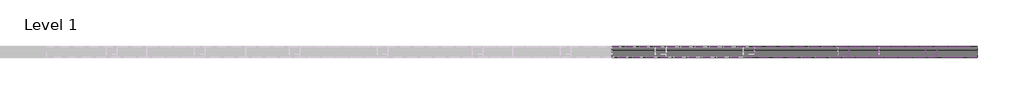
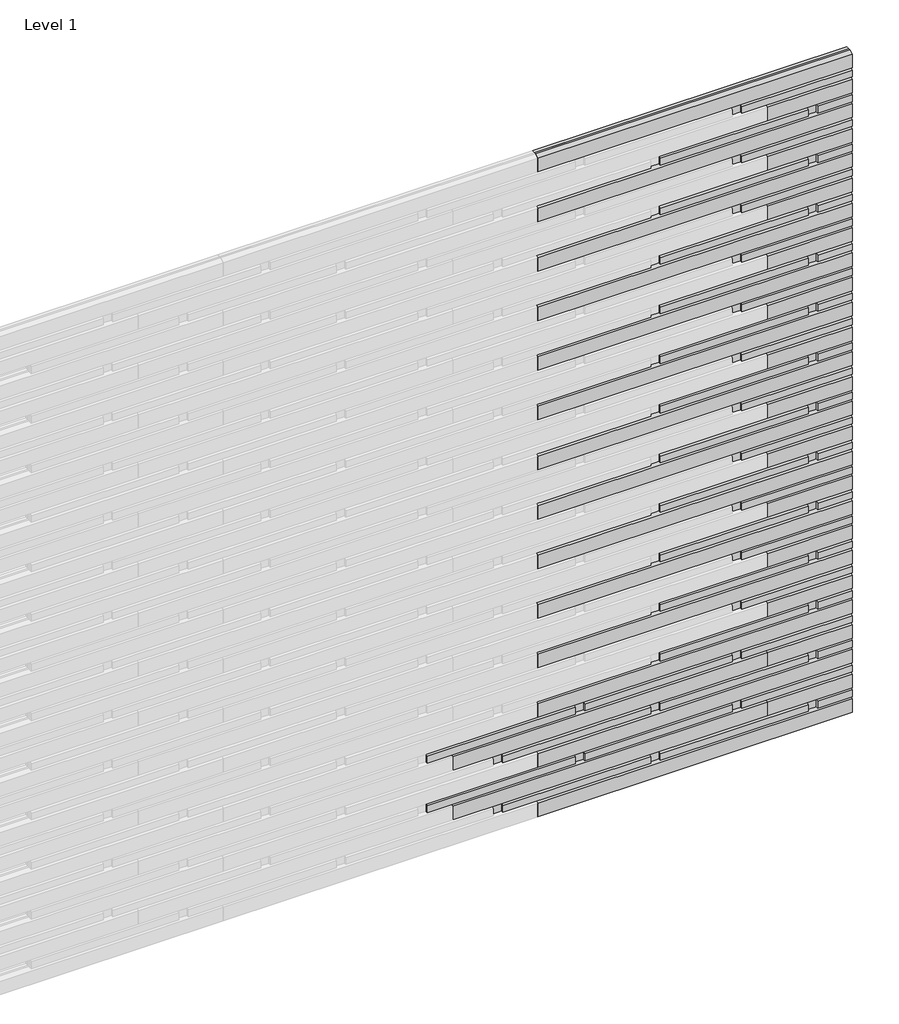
# One storey, part 4 of 4: 106 proxies.
"""IFC4 building model written with IfcOpenShell, lengths in millimetres."""

import ifcopenshell
import ifcopenshell.guid

model = None  # the IFC model being written
_history = None  # IfcOwnerHistory: only IFC2X3 demands one
_inside = {}  # id of a spatial element -> (the spatial element, [elements in it])
_under = {}  # id of a project, library or spatial element -> (it, [spatial elements below it])
_declared = {}  # id of a project -> (the project, [libraries it declares])
_typed = {}  # id of a type object -> (the type object, [elements of that type])
_made_of = {}  # id of a material, layer set ... -> (it, [elements and type objects made of it])


def new_model(schema):
    """Start an empty IFC model of exactly this schema.

    Asked for "IFC4X3", IfcOpenShell would pick the latest addendum, in which some entities
    have other attributes; the version numbers below select the first issue.
    IFC2X3 requires an IfcOwnerHistory on every rooted entity: one is made here for all.
    """
    global model, _history
    if schema == "IFC4X3":
        model = ifcopenshell.file(schema_version=(4, 3, 0, 0))
    else:
        model = ifcopenshell.file(schema=schema)
    _inside.clear()
    _under.clear()
    _declared.clear()
    _typed.clear()
    _made_of.clear()
    _history = None
    if model.schema == "IFC2X3":
        org = make("IfcOrganization", Name="unknown")
        user = make(
            "IfcPersonAndOrganization",
            ThePerson=make("IfcPerson", FamilyName="unknown"),
            TheOrganization=org,
        )
        app = make(
            "IfcApplication",
            ApplicationDeveloper=org,
            Version="unknown",
            ApplicationFullName="unknown",
            ApplicationIdentifier="unknown",
        )
        _history = make(
            "IfcOwnerHistory",
            OwningUser=user,
            OwningApplication=app,
            ChangeAction="ADDED",
            CreationDate=0,
        )
    return model


def make(cls, **values):
    """One entity of the class cls with the attributes given. An attribute that is None is left unset."""
    return model.create_entity(
        cls, **{name: value for name, value in values.items() if value is not None}
    )


def rooted(cls, **values):
    """An entity with a GlobalId (a new one), such as an element, a storey or a relation."""
    return make(cls, GlobalId=ifcopenshell.guid.new(), OwnerHistory=_history, **values)


def si_unit(unit_type, name, prefix=None):
    """IfcSIUnit, for example si_unit("LENGTHUNIT", "METRE", prefix="MILLI")."""
    return make("IfcSIUnit", UnitType=unit_type, Prefix=prefix, Name=name)


def assignment(units):
    """IfcUnitAssignment: the units of a project."""
    return None if units is None else make("IfcUnitAssignment", Units=units)


def point(xyz):
    """IfcCartesianPoint."""
    return None if xyz is None else make("IfcCartesianPoint", Coordinates=xyz)


def direction(xyz):
    """IfcDirection."""
    return None if xyz is None else make("IfcDirection", DirectionRatios=xyz)


def frame(location, z_axis=None, x_axis=None):
    """IfcAxis2Placement3D, a coordinate frame: its origin and axes. An axis left out is left unset."""
    return make(
        "IfcAxis2Placement3D",
        Location=point(location),
        Axis=direction(z_axis),
        RefDirection=direction(x_axis),
    )


def origin():
    """The frame at (0, 0, 0) with its axes left unset."""
    return frame((0.0, 0.0, 0.0))


def origin_with_axes():
    """The frame at (0, 0, 0) with the z axis (0, 0, 1) and the x axis (1, 0, 0) written out."""
    return frame((0.0, 0.0, 0.0), z_axis=(0.0, 0.0, 1.0), x_axis=(1.0, 0.0, 0.0))


def place(relative_to, where):
    """IfcLocalPlacement: puts the frame where relative to a parent placement (None: the world)."""
    return make(
        "IfcLocalPlacement", PlacementRelTo=relative_to, RelativePlacement=where
    )


def context(
    kind, dimensions, precision=None, world=None, true_north=None, identifier=None
):
    """IfcGeometricRepresentationContext, for example the 3D "Model" context."""
    return make(
        "IfcGeometricRepresentationContext",
        ContextIdentifier=identifier,
        ContextType=kind,
        CoordinateSpaceDimension=dimensions,
        Precision=precision,
        WorldCoordinateSystem=world,
        TrueNorth=true_north,
    )


def project(units=None, contexts=None):
    """IfcProject with its units and contexts."""
    return rooted(
        "IfcProject",
        Name="project",
        RepresentationContexts=contexts,
        UnitsInContext=assignment(units),
    )


def spatial(cls, under=None, at=None, **own):
    """A site, building, storey or space (cls), placed at a placement, below another one or the project."""
    s = rooted(cls, ObjectPlacement=at, **own)
    if under is not None:
        _under.setdefault(under.id(), (under, []))[1].append(s)
    return s


def polyline(points):
    """IfcPolyline through the points."""
    return make("IfcPolyline", Points=[point(p) for p in points])


def outline(outer, holes=None, kind="AREA"):
    """IfcArbitraryClosedProfileDef: a profile drawn as a closed curve; with holes, ...WithVoids."""
    if holes is None:
        return make("IfcArbitraryClosedProfileDef", ProfileType=kind, OuterCurve=outer)
    return make(
        "IfcArbitraryProfileDefWithVoids",
        ProfileType=kind,
        OuterCurve=outer,
        InnerCurves=holes,
    )


def extrude(swept, where, along, depth):
    """IfcExtrudedAreaSolid: the profile swept, set in the frame where, extruded along a direction by depth."""
    return make(
        "IfcExtrudedAreaSolid",
        SweptArea=swept,
        Position=where,
        ExtrudedDirection=direction(along),
        Depth=depth,
    )


def shape(context_of_items, identifier, shape_type, items):
    """IfcShapeRepresentation: the items that make up one representation, for example the "Body"."""
    return make(
        "IfcShapeRepresentation",
        ContextOfItems=context_of_items,
        RepresentationIdentifier=identifier,
        RepresentationType=shape_type,
        Items=items,
    )


def source(mapping_origin, context_of_items, identifier, shape_type, items):
    """IfcRepresentationMap: a shape defined once, which mapped items show again and again."""
    return make(
        "IfcRepresentationMap",
        MappingOrigin=mapping_origin,
        MappedRepresentation=shape(context_of_items, identifier, shape_type, items),
    )


def transform(
    local_origin,
    x_axis=None,
    y_axis=None,
    z_axis=None,
    scale=None,
    scale2=None,
    scale3=None,
    uniform=True,
):
    """IfcCartesianTransformationOperator3D, or its non-uniform kind. x_axis, y_axis, z_axis: its Axis1, 2, 3."""
    if uniform:
        return make(
            "IfcCartesianTransformationOperator3D",
            Axis1=direction(x_axis),
            Axis2=direction(y_axis),
            LocalOrigin=point(local_origin),
            Scale=scale,
            Axis3=direction(z_axis),
        )
    return make(
        "IfcCartesianTransformationOperator3DnonUniform",
        Axis1=direction(x_axis),
        Axis2=direction(y_axis),
        LocalOrigin=point(local_origin),
        Scale=scale,
        Axis3=direction(z_axis),
        Scale2=scale2,
        Scale3=scale3,
    )


def mapped(mapping_source, mapping_target):
    """IfcMappedItem: shows the shape of a source again, moved by a transform."""
    return make(
        "IfcMappedItem", MappingSource=mapping_source, MappingTarget=mapping_target
    )


def made_of(thing, what):
    """Note that an element or type object is made of a material, layer set ...; save() writes the relation."""
    if what is not None:
        _made_of.setdefault(what.id(), (what, []))[1].append(thing)
    return thing


def element(
    cls,
    number,
    at=None,
    inside=None,
    cuts=None,
    type_object=None,
    material=None,
    context=None,
    identifier="Body",
    shape_type=None,
    held_by="IfcProductDefinitionShape",
    body=None,
    shapes=None,
    **own,
):
    """One element of the class cls, such as IfcWall. Its Tag is "e" and its number.

    at: its placement. inside: the storey or other place that contains it. cuts: it is an
    opening in that element (IfcRelVoidsElement). A single representation is given by context,
    identifier, shape_type and body (its items); several are given by shapes. held_by: the class
    of the entity that holds the representations. save() writes the other relations.
    """
    e = rooted(cls, Tag="e%d" % number, ObjectPlacement=at, **own)
    if body is not None:
        shapes = [shape(context, identifier, shape_type, body)]
    if shapes is not None:
        e.Representation = make(held_by, Representations=shapes)
    if inside is not None:
        _inside.setdefault(inside.id(), (inside, []))[1].append(e)
    if cuts is not None:
        rooted(
            "IfcRelVoidsElement", RelatingBuildingElement=cuts, RelatedOpeningElement=e
        )
    if type_object is not None:
        _typed.setdefault(type_object.id(), (type_object, []))[1].append(e)
    return made_of(e, material)


def aggregate(whole, parts):
    """IfcRelAggregates: a whole, such as a stair, and the parts it consists of."""
    return rooted("IfcRelAggregates", RelatingObject=whole, RelatedObjects=parts)


def save(model, path):
    """Write the relations noted so far, then the file.

    IfcRelAggregates (storeys below a building ...), IfcRelContainedInSpatialStructure (elements
    in a storey), IfcRelDefinesByType, IfcRelAssociatesMaterial and IfcRelDeclares: one each for
    every whole, place, type object, material and project.
    """
    for whole, parts in _under.values():
        aggregate(whole, parts)
    for where, things in _inside.values():
        rooted(
            "IfcRelContainedInSpatialStructure",
            RelatedElements=things,
            RelatingStructure=where,
        )
    for kind, things in _typed.values():
        rooted("IfcRelDefinesByType", RelatedObjects=things, RelatingType=kind)
    for what, things in _made_of.values():
        rooted("IfcRelAssociatesMaterial", RelatedObjects=things, RelatingMaterial=what)
    for by, libraries in _declared.values():
        rooted("IfcRelDeclares", RelatingContext=by, RelatedDefinitions=libraries)
    model.write(path)


def specialty_equipment_50deff0f(model_context):
    return source(origin(), model_context, "Body", "SweptSolid", [
        extrude(outline(polyline([(44.45, 19.05), (-44.45, 19.05), (-44.45, 50.8), (31.4559581, 50.8), (44.45, 28.2936592), (44.45, 19.05)])), frame((-838.2, 0.0, 0.0), z_axis=(1.0, 0.0, 0.0), x_axis=(0.0, 1.0, 0.0)), (0.0, 0.0, 1.0), 1676.4),
        extrude(outline(polyline([(-838.2, -44.45), (-838.2, 44.45), (838.2, 44.45), (838.2, -44.45), (-838.2, -44.45)])), origin_with_axes(), (0.0, 0.0, 1.0), 19.05),
    ])


def specialty_equipment_1c03680a(model_context):
    return source(origin(), model_context, "Body", "SweptSolid", [
        extrude(outline(polyline([(25.4, 19.05), (-25.4, 19.05), (-25.4, 50.8), (12.4059581, 50.8), (25.4, 28.2936592), (25.4, 19.05)])), frame((-393.7, 0.0, 0.0), z_axis=(1.0, 0.0, 0.0), x_axis=(0.0, 1.0, 0.0)), (0.0, 0.0, 1.0), 787.4),
        extrude(outline(polyline([(-393.7, -25.4), (-393.7, 25.4), (393.7, 25.4), (393.7, -25.4), (-393.7, -25.4)])), origin_with_axes(), (0.0, 0.0, 1.0), 19.05),
    ])


def specialty_equipment_1ede2179(model_context):
    return source(origin(), model_context, "Body", "SweptSolid", [
        extrude(outline(polyline([(25.4, 25.4), (25.4, -25.4), (-25.4, -25.4), (-25.4, 25.4), (25.4, 25.4)])), frame((0.0, 0.0, 19.05), z_axis=(0.0, 0.0, 1.0), x_axis=(1.0, 0.0, 0.0)), (0.0, 0.0, 1.0), 19.05),
        extrude(outline(polyline([(-25.4, -25.4), (-25.4, 25.4), (25.4, 25.4), (25.4, -25.4), (-25.4, -25.4)])), origin_with_axes(), (0.0, 0.0, 1.0), 19.05),
    ])


def specialty_equipment_86a735bd(model_context):
    return source(origin(), model_context, "Body", "SweptSolid", [
        extrude(outline(polyline([(25.4, 19.05), (-25.4, 19.05), (-25.4, 50.8), (12.4059581, 50.8), (25.4, 28.2936592), (25.4, 19.05)])), frame((-294.0207011, 0.0, 0.0), z_axis=(1.0, 0.0, 0.0), x_axis=(0.0, 1.0, 0.0)), (0.0, 0.0, 1.0), 588.0414022),
        extrude(outline(polyline([(-294.0207011, -25.4), (-294.0207011, 25.4), (294.0207011, 25.4), (294.0207011, -25.4), (-294.0207011, -25.4)])), origin_with_axes(), (0.0, 0.0, 1.0), 19.05),
    ])


def specialty_equipment_7868c63d(model_context):
    return source(origin(), model_context, "Body", "SweptSolid", [
        extrude(outline(polyline([(25.4, 19.05), (-25.4, 19.05), (-25.4, 50.8), (12.4059581, 50.8), (25.4, 28.2936592), (25.4, 19.05)])), frame((-92.5037266, 0.0, 0.0), z_axis=(1.0, 0.0, 0.0), x_axis=(0.0, 1.0, 0.0)), (0.0, 0.0, 1.0), 185.0074532),
        extrude(outline(polyline([(-92.5037266, -25.4), (-92.5037266, 25.4), (92.5037266, 25.4), (92.5037266, -25.4), (-92.5037266, -25.4)])), origin_with_axes(), (0.0, 0.0, 1.0), 19.05),
    ])


def specialty_equipment_fa3eccf0(model_context):
    return source(origin(), model_context, "Body", "SweptSolid", [
        extrude(outline(polyline([(44.45, 19.05), (-44.45, 19.05), (-44.45, 50.8), (31.4559581, 50.8), (44.45, 28.2936592), (44.45, 19.05)])), frame((-226.2423973, 0.0, 0.0), z_axis=(1.0, 0.0, 0.0), x_axis=(0.0, 1.0, 0.0)), (0.0, 0.0, 1.0), 452.4847946),
        extrude(outline(polyline([(-226.2423973, -44.45), (-226.2423973, 44.45), (226.2423973, 44.45), (226.2423973, -44.45), (-226.2423973, -44.45)])), origin_with_axes(), (0.0, 0.0, 1.0), 19.05),
    ])


model = new_model("IFC4")

# Units and contexts
model_context = context("Model", 3, world=origin())
ifc_project = project(units=[si_unit("LENGTHUNIT", "METRE", prefix="MILLI")], contexts=[model_context])

# Site, building, storey
site = spatial("IfcSite", under=ifc_project)
building = spatial("IfcBuilding", under=site)
storey = spatial("IfcBuildingStorey", under=building, Name="Level 1", Elevation=0.0)

# Proxies
placement = place(None, origin())
specialty_equipment_shape = specialty_equipment_50deff0f(model_context)
element("IfcBuildingElementProxy", 1, Name="Spinneybeck_ARO Plank 7 : A - 5’-6”  x 3 1/2” x 1 1/4”", ObjectType="Spinneybeck_ARO Plank 7 : A - 5’-6”  x 3 1/2” x 1 1/4”", at=placement, inside=storey, context=model_context, shape_type="MappedRepresentation", body=[
    mapped(specialty_equipment_shape, transform((-1856.9177571, 2593.3070483, 3755.55), x_axis=(1.0, 0.0, 0.0), y_axis=(0.0, 0.0, 1.0), z_axis=(0.0, -1.0, 0.0))),
])
element("IfcBuildingElementProxy", 2, Name="Spinneybeck_ARO Plank 7 : A - 5’-6”  x 3 1/2” x 1 1/4”", ObjectType="Spinneybeck_ARO Plank 7 : A - 5’-6”  x 3 1/2” x 1 1/4”", at=placement, inside=storey, context=model_context, shape_type="MappedRepresentation", body=[
    mapped(specialty_equipment_shape, transform((-1856.9177571, 2593.3070483, 3476.15), x_axis=(1.0, 0.0, 0.0), y_axis=(0.0, 0.0, 1.0), z_axis=(0.0, -1.0, 0.0))),
])
element("IfcBuildingElementProxy", 3, Name="Spinneybeck_ARO Plank 7 : A - 5’-6”  x 3 1/2” x 1 1/4”", ObjectType="Spinneybeck_ARO Plank 7 : A - 5’-6”  x 3 1/2” x 1 1/4”", at=placement, inside=storey, context=model_context, shape_type="MappedRepresentation", body=[
    mapped(specialty_equipment_shape, transform((-1856.9177571, 2593.3070483, 3196.75), x_axis=(1.0, 0.0, 0.0), y_axis=(0.0, 0.0, 1.0), z_axis=(0.0, -1.0, 0.0))),
])
element("IfcBuildingElementProxy", 4, Name="Spinneybeck_ARO Plank 7 : A - 5’-6”  x 3 1/2” x 1 1/4”", ObjectType="Spinneybeck_ARO Plank 7 : A - 5’-6”  x 3 1/2” x 1 1/4”", at=placement, inside=storey, context=model_context, shape_type="MappedRepresentation", body=[
    mapped(specialty_equipment_shape, transform((-1856.9177571, 2593.3070483, 2917.35), x_axis=(1.0, 0.0, 0.0), y_axis=(0.0, 0.0, 1.0), z_axis=(0.0, -1.0, 0.0))),
])
element("IfcBuildingElementProxy", 5, Name="Spinneybeck_ARO Plank 7 : A - 5’-6”  x 3 1/2” x 1 1/4”", ObjectType="Spinneybeck_ARO Plank 7 : A - 5’-6”  x 3 1/2” x 1 1/4”", at=placement, inside=storey, context=model_context, shape_type="MappedRepresentation", body=[
    mapped(specialty_equipment_shape, transform((-1856.9177571, 2593.3070483, 2637.95), x_axis=(1.0, 0.0, 0.0), y_axis=(0.0, 0.0, 1.0), z_axis=(0.0, -1.0, 0.0))),
])
element("IfcBuildingElementProxy", 6, Name="Spinneybeck_ARO Plank 7 : A - 5’-6”  x 3 1/2” x 1 1/4”", ObjectType="Spinneybeck_ARO Plank 7 : A - 5’-6”  x 3 1/2” x 1 1/4”", at=placement, inside=storey, context=model_context, shape_type="MappedRepresentation", body=[
    mapped(specialty_equipment_shape, transform((-1856.9177571, 2593.3070483, 2358.55), x_axis=(1.0, 0.0, 0.0), y_axis=(0.0, 0.0, 1.0), z_axis=(0.0, -1.0, 0.0))),
])
element("IfcBuildingElementProxy", 7, Name="Spinneybeck_ARO Plank 7 : A - 5’-6”  x 3 1/2” x 1 1/4”", ObjectType="Spinneybeck_ARO Plank 7 : A - 5’-6”  x 3 1/2” x 1 1/4”", at=placement, inside=storey, context=model_context, shape_type="MappedRepresentation", body=[
    mapped(specialty_equipment_shape, transform((-1856.9177571, 2593.3070483, 2079.15), x_axis=(1.0, 0.0, 0.0), y_axis=(0.0, 0.0, 1.0), z_axis=(0.0, -1.0, 0.0))),
])
element("IfcBuildingElementProxy", 8, Name="Spinneybeck_ARO Plank 7 : A - 5’-6”  x 3 1/2” x 1 1/4”", ObjectType="Spinneybeck_ARO Plank 7 : A - 5’-6”  x 3 1/2” x 1 1/4”", at=placement, inside=storey, context=model_context, shape_type="MappedRepresentation", body=[
    mapped(specialty_equipment_shape, transform((-1856.9177571, 2593.3070483, 1799.75), x_axis=(1.0, 0.0, 0.0), y_axis=(0.0, 0.0, 1.0), z_axis=(0.0, -1.0, 0.0))),
])
element("IfcBuildingElementProxy", 9, Name="Spinneybeck_ARO Plank 7 : A - 5’-6”  x 3 1/2” x 1 1/4”", ObjectType="Spinneybeck_ARO Plank 7 : A - 5’-6”  x 3 1/2” x 1 1/4”", at=placement, inside=storey, context=model_context, shape_type="MappedRepresentation", body=[
    mapped(specialty_equipment_shape, transform((-1856.9177571, 2593.3070483, 1520.35), x_axis=(1.0, 0.0, 0.0), y_axis=(0.0, 0.0, 1.0), z_axis=(0.0, -1.0, 0.0))),
])
element("IfcBuildingElementProxy", 10, Name="Spinneybeck_ARO Plank 7 : A - 5’-6”  x 3 1/2” x 1 1/4”", ObjectType="Spinneybeck_ARO Plank 7 : A - 5’-6”  x 3 1/2” x 1 1/4”", at=placement, inside=storey, context=model_context, shape_type="MappedRepresentation", body=[
    mapped(specialty_equipment_shape, transform((-1856.9177571, 2593.3070483, 1240.95), x_axis=(1.0, 0.0, 0.0), y_axis=(0.0, 0.0, 1.0), z_axis=(0.0, -1.0, 0.0))),
])
element("IfcBuildingElementProxy", 11, Name="Spinneybeck_ARO Plank 7 : A - 5’-6”  x 3 1/2” x 1 1/4”", ObjectType="Spinneybeck_ARO Plank 7 : A - 5’-6”  x 3 1/2” x 1 1/4”", at=placement, inside=storey, context=model_context, shape_type="MappedRepresentation", body=[
    mapped(specialty_equipment_shape, transform((-1856.9177571, 2593.3070483, 961.55), x_axis=(1.0, 0.0, 0.0), y_axis=(0.0, 0.0, 1.0), z_axis=(0.0, -1.0, 0.0))),
])
element("IfcBuildingElementProxy", 12, Name="Spinneybeck_ARO Plank 7 : A - 5’-6”  x 3 1/2” x 1 1/4”", ObjectType="Spinneybeck_ARO Plank 7 : A - 5’-6”  x 3 1/2” x 1 1/4”", at=placement, inside=storey, context=model_context, shape_type="MappedRepresentation", body=[
    mapped(specialty_equipment_shape, transform((-1856.9177571, 2593.3070483, 682.15), x_axis=(1.0, 0.0, 0.0), y_axis=(0.0, 0.0, 1.0), z_axis=(0.0, -1.0, 0.0))),
])
element("IfcBuildingElementProxy", 13, Name="Spinneybeck_ARO Plank 7 : A - 5’-6”  x 3 1/2” x 1 1/4”", ObjectType="Spinneybeck_ARO Plank 7 : A - 5’-6”  x 3 1/2” x 1 1/4”", at=placement, inside=storey, context=model_context, shape_type="MappedRepresentation", body=[
    mapped(specialty_equipment_shape, transform((-2309.4025517, 2593.3070483, 542.45), x_axis=(1.0, 0.0, 0.0), y_axis=(0.0, 0.0, 1.0), z_axis=(0.0, -1.0, 0.0))),
])
element("IfcBuildingElementProxy", 14, Name="Spinneybeck_ARO Plank 7 : A - 5’-6”  x 3 1/2” x 1 1/4”", ObjectType="Spinneybeck_ARO Plank 7 : A - 5’-6”  x 3 1/2” x 1 1/4”", at=placement, inside=storey, context=model_context, shape_type="MappedRepresentation", body=[
    mapped(specialty_equipment_shape, transform((-1856.9177571, 2593.3070483, 402.75), x_axis=(1.0, 0.0, 0.0), y_axis=(0.0, 0.0, 1.0), z_axis=(0.0, -1.0, 0.0))),
])
element("IfcBuildingElementProxy", 15, Name="Spinneybeck_ARO Plank 7 : A - 5’-6”  x 3 1/2” x 1 1/4”", ObjectType="Spinneybeck_ARO Plank 7 : A - 5’-6”  x 3 1/2” x 1 1/4”", at=placement, inside=storey, context=model_context, shape_type="MappedRepresentation", body=[
    mapped(specialty_equipment_shape, transform((-2309.4025517, 2593.3070483, 263.05), x_axis=(1.0, 0.0, 0.0), y_axis=(0.0, 0.0, 1.0), z_axis=(0.0, -1.0, 0.0))),
])
element("IfcBuildingElementProxy", 16, Name="Spinneybeck_ARO Plank 7 : A - 5’-6”  x 3 1/2” x 1 1/4”", ObjectType="Spinneybeck_ARO Plank 7 : A - 5’-6”  x 3 1/2” x 1 1/4”", at=placement, inside=storey, context=model_context, shape_type="MappedRepresentation", body=[
    mapped(specialty_equipment_shape, transform((-1856.9177571, 2593.3070483, 123.35), x_axis=(1.0, 0.0, 0.0), y_axis=(0.0, 0.0, 1.0), z_axis=(0.0, -1.0, 0.0))),
])
specialty_equipment_2_shape = specialty_equipment_1c03680a(model_context)
element("IfcBuildingElementProxy", 17, Name="Spinneybeck_ARO Plank 7 : B - 2’-7” x 2” x 1 1/4”", ObjectType="Spinneybeck_ARO Plank 7 : B - 2’-7” x 2” x 1 1/4”", at=placement, inside=storey, context=model_context, shape_type="MappedRepresentation", body=[
    mapped(specialty_equipment_2_shape, transform((-1648.2252102, 2593.3070483, 3546.0), x_axis=(1.0, 0.0, 0.0), y_axis=(0.0, 0.0, 1.0), z_axis=(0.0, -1.0, 0.0))),
])
element("IfcBuildingElementProxy", 18, Name="Spinneybeck_ARO Plank 7 : B - 2’-7” x 2” x 1 1/4”", ObjectType="Spinneybeck_ARO Plank 7 : B - 2’-7” x 2” x 1 1/4”", at=placement, inside=storey, context=model_context, shape_type="MappedRepresentation", body=[
    mapped(specialty_equipment_2_shape, transform((-1648.2252102, 2593.3070483, 3266.6), x_axis=(1.0, 0.0, 0.0), y_axis=(0.0, 0.0, 1.0), z_axis=(0.0, -1.0, 0.0))),
])
element("IfcBuildingElementProxy", 19, Name="Spinneybeck_ARO Plank 7 : B - 2’-7” x 2” x 1 1/4”", ObjectType="Spinneybeck_ARO Plank 7 : B - 2’-7” x 2” x 1 1/4”", at=placement, inside=storey, context=model_context, shape_type="MappedRepresentation", body=[
    mapped(specialty_equipment_2_shape, transform((-1648.2252102, 2593.3070483, 2987.2), x_axis=(1.0, 0.0, 0.0), y_axis=(0.0, 0.0, 1.0), z_axis=(0.0, -1.0, 0.0))),
])
element("IfcBuildingElementProxy", 20, Name="Spinneybeck_ARO Plank 7 : B - 2’-7” x 2” x 1 1/4”", ObjectType="Spinneybeck_ARO Plank 7 : B - 2’-7” x 2” x 1 1/4”", at=placement, inside=storey, context=model_context, shape_type="MappedRepresentation", body=[
    mapped(specialty_equipment_2_shape, transform((-1648.2252102, 2593.3070483, 2707.8), x_axis=(1.0, 0.0, 0.0), y_axis=(0.0, 0.0, 1.0), z_axis=(0.0, -1.0, 0.0))),
])
element("IfcBuildingElementProxy", 21, Name="Spinneybeck_ARO Plank 7 : B - 2’-7” x 2” x 1 1/4”", ObjectType="Spinneybeck_ARO Plank 7 : B - 2’-7” x 2” x 1 1/4”", at=placement, inside=storey, context=model_context, shape_type="MappedRepresentation", body=[
    mapped(specialty_equipment_2_shape, transform((-1648.2252102, 2593.3070483, 2428.4), x_axis=(1.0, 0.0, 0.0), y_axis=(0.0, 0.0, 1.0), z_axis=(0.0, -1.0, 0.0))),
])
element("IfcBuildingElementProxy", 22, Name="Spinneybeck_ARO Plank 7 : B - 2’-7” x 2” x 1 1/4”", ObjectType="Spinneybeck_ARO Plank 7 : B - 2’-7” x 2” x 1 1/4”", at=placement, inside=storey, context=model_context, shape_type="MappedRepresentation", body=[
    mapped(specialty_equipment_2_shape, transform((-1648.2252102, 2593.3070483, 2149.0), x_axis=(1.0, 0.0, 0.0), y_axis=(0.0, 0.0, 1.0), z_axis=(0.0, -1.0, 0.0))),
])
element("IfcBuildingElementProxy", 23, Name="Spinneybeck_ARO Plank 7 : B - 2’-7” x 2” x 1 1/4”", ObjectType="Spinneybeck_ARO Plank 7 : B - 2’-7” x 2” x 1 1/4”", at=placement, inside=storey, context=model_context, shape_type="MappedRepresentation", body=[
    mapped(specialty_equipment_2_shape, transform((-1648.2252102, 2593.3070483, 1869.6), x_axis=(1.0, 0.0, 0.0), y_axis=(0.0, 0.0, 1.0), z_axis=(0.0, -1.0, 0.0))),
])
element("IfcBuildingElementProxy", 24, Name="Spinneybeck_ARO Plank 7 : B - 2’-7” x 2” x 1 1/4”", ObjectType="Spinneybeck_ARO Plank 7 : B - 2’-7” x 2” x 1 1/4”", at=placement, inside=storey, context=model_context, shape_type="MappedRepresentation", body=[
    mapped(specialty_equipment_2_shape, transform((-1648.2252102, 2593.3070483, 1590.2), x_axis=(1.0, 0.0, 0.0), y_axis=(0.0, 0.0, 1.0), z_axis=(0.0, -1.0, 0.0))),
])
element("IfcBuildingElementProxy", 25, Name="Spinneybeck_ARO Plank 7 : B - 2’-7” x 2” x 1 1/4”", ObjectType="Spinneybeck_ARO Plank 7 : B - 2’-7” x 2” x 1 1/4”", at=placement, inside=storey, context=model_context, shape_type="MappedRepresentation", body=[
    mapped(specialty_equipment_2_shape, transform((-1648.2252102, 2593.3070483, 1310.8), x_axis=(1.0, 0.0, 0.0), y_axis=(0.0, 0.0, 1.0), z_axis=(0.0, -1.0, 0.0))),
])
element("IfcBuildingElementProxy", 26, Name="Spinneybeck_ARO Plank 7 : B - 2’-7” x 2” x 1 1/4”", ObjectType="Spinneybeck_ARO Plank 7 : B - 2’-7” x 2” x 1 1/4”", at=placement, inside=storey, context=model_context, shape_type="MappedRepresentation", body=[
    mapped(specialty_equipment_2_shape, transform((-1648.2252102, 2593.3070483, 1031.4), x_axis=(1.0, 0.0, 0.0), y_axis=(0.0, 0.0, 1.0), z_axis=(0.0, -1.0, 0.0))),
])
element("IfcBuildingElementProxy", 27, Name="Spinneybeck_ARO Plank 7 : B - 2’-7” x 2” x 1 1/4”", ObjectType="Spinneybeck_ARO Plank 7 : B - 2’-7” x 2” x 1 1/4”", at=placement, inside=storey, context=model_context, shape_type="MappedRepresentation", body=[
    mapped(specialty_equipment_2_shape, transform((-1648.2252102, 2593.3070483, 752.0), x_axis=(1.0, 0.0, 0.0), y_axis=(0.0, 0.0, 1.0), z_axis=(0.0, -1.0, 0.0))),
])
element("IfcBuildingElementProxy", 28, Name="Spinneybeck_ARO Plank 7 : B - 2’-7” x 2” x 1 1/4”", ObjectType="Spinneybeck_ARO Plank 7 : B - 2’-7” x 2” x 1 1/4”", at=placement, inside=storey, context=model_context, shape_type="MappedRepresentation", body=[
    mapped(specialty_equipment_2_shape, transform((-2889.4591593, 2593.3070483, 612.3), x_axis=(1.0, 0.0, 0.0), y_axis=(0.0, 0.0, 1.0), z_axis=(0.0, -1.0, 0.0))),
])
element("IfcBuildingElementProxy", 29, Name="Spinneybeck_ARO Plank 7 : B - 2’-7” x 2” x 1 1/4”", ObjectType="Spinneybeck_ARO Plank 7 : B - 2’-7” x 2” x 1 1/4”", at=placement, inside=storey, context=model_context, shape_type="MappedRepresentation", body=[
    mapped(specialty_equipment_2_shape, transform((-2051.2591593, 2593.3070483, 612.3), x_axis=(1.0, 0.0, 0.0), y_axis=(0.0, 0.0, 1.0), z_axis=(0.0, -1.0, 0.0))),
])
element("IfcBuildingElementProxy", 30, Name="Spinneybeck_ARO Plank 7 : B - 2’-7” x 2” x 1 1/4”", ObjectType="Spinneybeck_ARO Plank 7 : B - 2’-7” x 2” x 1 1/4”", at=placement, inside=storey, context=model_context, shape_type="MappedRepresentation", body=[
    mapped(specialty_equipment_2_shape, transform((-2486.4252102, 2593.3070483, 472.6), x_axis=(1.0, 0.0, 0.0), y_axis=(0.0, 0.0, 1.0), z_axis=(0.0, -1.0, 0.0))),
])
element("IfcBuildingElementProxy", 31, Name="Spinneybeck_ARO Plank 7 : B - 2’-7” x 2” x 1 1/4”", ObjectType="Spinneybeck_ARO Plank 7 : B - 2’-7” x 2” x 1 1/4”", at=placement, inside=storey, context=model_context, shape_type="MappedRepresentation", body=[
    mapped(specialty_equipment_2_shape, transform((-1648.2252102, 2593.3070483, 472.6), x_axis=(1.0, 0.0, 0.0), y_axis=(0.0, 0.0, 1.0), z_axis=(0.0, -1.0, 0.0))),
])
element("IfcBuildingElementProxy", 32, Name="Spinneybeck_ARO Plank 7 : B - 2’-7” x 2” x 1 1/4”", ObjectType="Spinneybeck_ARO Plank 7 : B - 2’-7” x 2” x 1 1/4”", at=placement, inside=storey, context=model_context, shape_type="MappedRepresentation", body=[
    mapped(specialty_equipment_2_shape, transform((-2889.4591593, 2593.3070483, 332.9), x_axis=(1.0, 0.0, 0.0), y_axis=(0.0, 0.0, 1.0), z_axis=(0.0, -1.0, 0.0))),
])
element("IfcBuildingElementProxy", 33, Name="Spinneybeck_ARO Plank 7 : B - 2’-7” x 2” x 1 1/4”", ObjectType="Spinneybeck_ARO Plank 7 : B - 2’-7” x 2” x 1 1/4”", at=placement, inside=storey, context=model_context, shape_type="MappedRepresentation", body=[
    mapped(specialty_equipment_2_shape, transform((-2051.2591593, 2593.3070483, 332.9), x_axis=(1.0, 0.0, 0.0), y_axis=(0.0, 0.0, 1.0), z_axis=(0.0, -1.0, 0.0))),
])
element("IfcBuildingElementProxy", 34, Name="Spinneybeck_ARO Plank 7 : B - 2’-7” x 2” x 1 1/4”", ObjectType="Spinneybeck_ARO Plank 7 : B - 2’-7” x 2” x 1 1/4”", at=placement, inside=storey, context=model_context, shape_type="MappedRepresentation", body=[
    mapped(specialty_equipment_2_shape, transform((-2486.4252102, 2593.3070483, 193.2), x_axis=(1.0, 0.0, 0.0), y_axis=(0.0, 0.0, 1.0), z_axis=(0.0, -1.0, 0.0))),
])
element("IfcBuildingElementProxy", 35, Name="Spinneybeck_ARO Plank 7 : B - 2’-7” x 2” x 1 1/4”", ObjectType="Spinneybeck_ARO Plank 7 : B - 2’-7” x 2” x 1 1/4”", at=placement, inside=storey, context=model_context, shape_type="MappedRepresentation", body=[
    mapped(specialty_equipment_2_shape, transform((-1648.2252102, 2593.3070483, 193.2), x_axis=(1.0, 0.0, 0.0), y_axis=(0.0, 0.0, 1.0), z_axis=(0.0, -1.0, 0.0))),
])
specialty_equipment_3_shape = specialty_equipment_1ede2179(model_context)
element("IfcBuildingElementProxy", 36, Name="Spinneybeck_ARO Plank 7 : C - 2” x 2” x 3/4”", ObjectType="Spinneybeck_ARO Plank 7 : C - 2” x 2” x 3/4”", at=placement, inside=storey, context=model_context, shape_type="MappedRepresentation", body=[
    mapped(specialty_equipment_3_shape, transform((-1632.1591593, 2593.3070483, 3685.7), x_axis=(1.0, 0.0, 0.0), y_axis=(0.0, 0.0, 1.0), z_axis=(0.0, -1.0, 0.0))),
])
element("IfcBuildingElementProxy", 37, Name="Spinneybeck_ARO Plank 7 : C - 2” x 2” x 3/4”", ObjectType="Spinneybeck_ARO Plank 7 : C - 2” x 2” x 3/4”", at=placement, inside=storey, context=model_context, shape_type="MappedRepresentation", body=[
    mapped(specialty_equipment_3_shape, transform((-1229.1252102, 2593.3070483, 3546.0), x_axis=(1.0, 0.0, 0.0), y_axis=(0.0, 0.0, 1.0), z_axis=(0.0, -1.0, 0.0))),
])
element("IfcBuildingElementProxy", 38, Name="Spinneybeck_ARO Plank 7 : C - 2” x 2” x 3/4”", ObjectType="Spinneybeck_ARO Plank 7 : C - 2” x 2” x 3/4”", at=placement, inside=storey, context=model_context, shape_type="MappedRepresentation", body=[
    mapped(specialty_equipment_3_shape, transform((-1632.1591593, 2593.3070483, 3406.3), x_axis=(1.0, 0.0, 0.0), y_axis=(0.0, 0.0, 1.0), z_axis=(0.0, -1.0, 0.0))),
])
element("IfcBuildingElementProxy", 39, Name="Spinneybeck_ARO Plank 7 : C - 2” x 2” x 3/4”", ObjectType="Spinneybeck_ARO Plank 7 : C - 2” x 2” x 3/4”", at=placement, inside=storey, context=model_context, shape_type="MappedRepresentation", body=[
    mapped(specialty_equipment_3_shape, transform((-1229.1252102, 2593.3070483, 3266.6), x_axis=(1.0, 0.0, 0.0), y_axis=(0.0, 0.0, 1.0), z_axis=(0.0, -1.0, 0.0))),
])
element("IfcBuildingElementProxy", 40, Name="Spinneybeck_ARO Plank 7 : C - 2” x 2” x 3/4”", ObjectType="Spinneybeck_ARO Plank 7 : C - 2” x 2” x 3/4”", at=placement, inside=storey, context=model_context, shape_type="MappedRepresentation", body=[
    mapped(specialty_equipment_3_shape, transform((-1632.1591593, 2593.3070483, 3126.9), x_axis=(1.0, 0.0, 0.0), y_axis=(0.0, 0.0, 1.0), z_axis=(0.0, -1.0, 0.0))),
])
element("IfcBuildingElementProxy", 41, Name="Spinneybeck_ARO Plank 7 : C - 2” x 2” x 3/4”", ObjectType="Spinneybeck_ARO Plank 7 : C - 2” x 2” x 3/4”", at=placement, inside=storey, context=model_context, shape_type="MappedRepresentation", body=[
    mapped(specialty_equipment_3_shape, transform((-1229.1252102, 2593.3070483, 2987.2), x_axis=(1.0, 0.0, 0.0), y_axis=(0.0, 0.0, 1.0), z_axis=(0.0, -1.0, 0.0))),
])
element("IfcBuildingElementProxy", 42, Name="Spinneybeck_ARO Plank 7 : C - 2” x 2” x 3/4”", ObjectType="Spinneybeck_ARO Plank 7 : C - 2” x 2” x 3/4”", at=placement, inside=storey, context=model_context, shape_type="MappedRepresentation", body=[
    mapped(specialty_equipment_3_shape, transform((-1632.1591593, 2593.3070483, 2847.5), x_axis=(1.0, 0.0, 0.0), y_axis=(0.0, 0.0, 1.0), z_axis=(0.0, -1.0, 0.0))),
])
element("IfcBuildingElementProxy", 43, Name="Spinneybeck_ARO Plank 7 : C - 2” x 2” x 3/4”", ObjectType="Spinneybeck_ARO Plank 7 : C - 2” x 2” x 3/4”", at=placement, inside=storey, context=model_context, shape_type="MappedRepresentation", body=[
    mapped(specialty_equipment_3_shape, transform((-1229.1252102, 2593.3070483, 2707.8), x_axis=(1.0, 0.0, 0.0), y_axis=(0.0, 0.0, 1.0), z_axis=(0.0, -1.0, 0.0))),
])
element("IfcBuildingElementProxy", 44, Name="Spinneybeck_ARO Plank 7 : C - 2” x 2” x 3/4”", ObjectType="Spinneybeck_ARO Plank 7 : C - 2” x 2” x 3/4”", at=placement, inside=storey, context=model_context, shape_type="MappedRepresentation", body=[
    mapped(specialty_equipment_3_shape, transform((-1632.1591593, 2593.3070483, 2568.1), x_axis=(1.0, 0.0, 0.0), y_axis=(0.0, 0.0, 1.0), z_axis=(0.0, -1.0, 0.0))),
])
element("IfcBuildingElementProxy", 45, Name="Spinneybeck_ARO Plank 7 : C - 2” x 2” x 3/4”", ObjectType="Spinneybeck_ARO Plank 7 : C - 2” x 2” x 3/4”", at=placement, inside=storey, context=model_context, shape_type="MappedRepresentation", body=[
    mapped(specialty_equipment_3_shape, transform((-1229.1252102, 2593.3070483, 2428.4), x_axis=(1.0, 0.0, 0.0), y_axis=(0.0, 0.0, 1.0), z_axis=(0.0, -1.0, 0.0))),
])
element("IfcBuildingElementProxy", 46, Name="Spinneybeck_ARO Plank 7 : C - 2” x 2” x 3/4”", ObjectType="Spinneybeck_ARO Plank 7 : C - 2” x 2” x 3/4”", at=placement, inside=storey, context=model_context, shape_type="MappedRepresentation", body=[
    mapped(specialty_equipment_3_shape, transform((-1632.1591593, 2593.3070483, 2288.7), x_axis=(1.0, 0.0, 0.0), y_axis=(0.0, 0.0, 1.0), z_axis=(0.0, -1.0, 0.0))),
])
element("IfcBuildingElementProxy", 47, Name="Spinneybeck_ARO Plank 7 : C - 2” x 2” x 3/4”", ObjectType="Spinneybeck_ARO Plank 7 : C - 2” x 2” x 3/4”", at=placement, inside=storey, context=model_context, shape_type="MappedRepresentation", body=[
    mapped(specialty_equipment_3_shape, transform((-1229.1252102, 2593.3070483, 2149.0), x_axis=(1.0, 0.0, 0.0), y_axis=(0.0, 0.0, 1.0), z_axis=(0.0, -1.0, 0.0))),
])
element("IfcBuildingElementProxy", 48, Name="Spinneybeck_ARO Plank 7 : C - 2” x 2” x 3/4”", ObjectType="Spinneybeck_ARO Plank 7 : C - 2” x 2” x 3/4”", at=placement, inside=storey, context=model_context, shape_type="MappedRepresentation", body=[
    mapped(specialty_equipment_3_shape, transform((-1632.1591593, 2593.3070483, 2009.3), x_axis=(1.0, 0.0, 0.0), y_axis=(0.0, 0.0, 1.0), z_axis=(0.0, -1.0, 0.0))),
])
element("IfcBuildingElementProxy", 49, Name="Spinneybeck_ARO Plank 7 : C - 2” x 2” x 3/4”", ObjectType="Spinneybeck_ARO Plank 7 : C - 2” x 2” x 3/4”", at=placement, inside=storey, context=model_context, shape_type="MappedRepresentation", body=[
    mapped(specialty_equipment_3_shape, transform((-1229.1252102, 2593.3070483, 1869.6), x_axis=(1.0, 0.0, 0.0), y_axis=(0.0, 0.0, 1.0), z_axis=(0.0, -1.0, 0.0))),
])
element("IfcBuildingElementProxy", 50, Name="Spinneybeck_ARO Plank 7 : C - 2” x 2” x 3/4”", ObjectType="Spinneybeck_ARO Plank 7 : C - 2” x 2” x 3/4”", at=placement, inside=storey, context=model_context, shape_type="MappedRepresentation", body=[
    mapped(specialty_equipment_3_shape, transform((-1632.1591593, 2593.3070483, 1729.9), x_axis=(1.0, 0.0, 0.0), y_axis=(0.0, 0.0, 1.0), z_axis=(0.0, -1.0, 0.0))),
])
element("IfcBuildingElementProxy", 51, Name="Spinneybeck_ARO Plank 7 : C - 2” x 2” x 3/4”", ObjectType="Spinneybeck_ARO Plank 7 : C - 2” x 2” x 3/4”", at=placement, inside=storey, context=model_context, shape_type="MappedRepresentation", body=[
    mapped(specialty_equipment_3_shape, transform((-1229.1252102, 2593.3070483, 1590.2), x_axis=(1.0, 0.0, 0.0), y_axis=(0.0, 0.0, 1.0), z_axis=(0.0, -1.0, 0.0))),
])
element("IfcBuildingElementProxy", 52, Name="Spinneybeck_ARO Plank 7 : C - 2” x 2” x 3/4”", ObjectType="Spinneybeck_ARO Plank 7 : C - 2” x 2” x 3/4”", at=placement, inside=storey, context=model_context, shape_type="MappedRepresentation", body=[
    mapped(specialty_equipment_3_shape, transform((-1632.1591593, 2593.3070483, 1450.5), x_axis=(1.0, 0.0, 0.0), y_axis=(0.0, 0.0, 1.0), z_axis=(0.0, -1.0, 0.0))),
])
element("IfcBuildingElementProxy", 53, Name="Spinneybeck_ARO Plank 7 : C - 2” x 2” x 3/4”", ObjectType="Spinneybeck_ARO Plank 7 : C - 2” x 2” x 3/4”", at=placement, inside=storey, context=model_context, shape_type="MappedRepresentation", body=[
    mapped(specialty_equipment_3_shape, transform((-1229.1252102, 2593.3070483, 1310.8), x_axis=(1.0, 0.0, 0.0), y_axis=(0.0, 0.0, 1.0), z_axis=(0.0, -1.0, 0.0))),
])
element("IfcBuildingElementProxy", 54, Name="Spinneybeck_ARO Plank 7 : C - 2” x 2” x 3/4”", ObjectType="Spinneybeck_ARO Plank 7 : C - 2” x 2” x 3/4”", at=placement, inside=storey, context=model_context, shape_type="MappedRepresentation", body=[
    mapped(specialty_equipment_3_shape, transform((-1632.1591593, 2593.3070483, 1171.1), x_axis=(1.0, 0.0, 0.0), y_axis=(0.0, 0.0, 1.0), z_axis=(0.0, -1.0, 0.0))),
])
element("IfcBuildingElementProxy", 55, Name="Spinneybeck_ARO Plank 7 : C - 2” x 2” x 3/4”", ObjectType="Spinneybeck_ARO Plank 7 : C - 2” x 2” x 3/4”", at=placement, inside=storey, context=model_context, shape_type="MappedRepresentation", body=[
    mapped(specialty_equipment_3_shape, transform((-1229.1252102, 2593.3070483, 1031.4), x_axis=(1.0, 0.0, 0.0), y_axis=(0.0, 0.0, 1.0), z_axis=(0.0, -1.0, 0.0))),
])
element("IfcBuildingElementProxy", 56, Name="Spinneybeck_ARO Plank 7 : C - 2” x 2” x 3/4”", ObjectType="Spinneybeck_ARO Plank 7 : C - 2” x 2” x 3/4”", at=placement, inside=storey, context=model_context, shape_type="MappedRepresentation", body=[
    mapped(specialty_equipment_3_shape, transform((-1632.1591593, 2593.3070483, 891.7), x_axis=(1.0, 0.0, 0.0), y_axis=(0.0, 0.0, 1.0), z_axis=(0.0, -1.0, 0.0))),
])
element("IfcBuildingElementProxy", 57, Name="Spinneybeck_ARO Plank 7 : C - 2” x 2” x 3/4”", ObjectType="Spinneybeck_ARO Plank 7 : C - 2” x 2” x 3/4”", at=placement, inside=storey, context=model_context, shape_type="MappedRepresentation", body=[
    mapped(specialty_equipment_3_shape, transform((-1229.1252102, 2593.3070483, 752.0), x_axis=(1.0, 0.0, 0.0), y_axis=(0.0, 0.0, 1.0), z_axis=(0.0, -1.0, 0.0))),
])
element("IfcBuildingElementProxy", 58, Name="Spinneybeck_ARO Plank 7 : C - 2” x 2” x 3/4”", ObjectType="Spinneybeck_ARO Plank 7 : C - 2” x 2” x 3/4”", at=placement, inside=storey, context=model_context, shape_type="MappedRepresentation", body=[
    mapped(specialty_equipment_3_shape, transform((-2470.3591593, 2593.3070483, 612.3), x_axis=(1.0, 0.0, 0.0), y_axis=(0.0, 0.0, 1.0), z_axis=(0.0, -1.0, 0.0))),
])
element("IfcBuildingElementProxy", 59, Name="Spinneybeck_ARO Plank 7 : C - 2” x 2” x 3/4”", ObjectType="Spinneybeck_ARO Plank 7 : C - 2” x 2” x 3/4”", at=placement, inside=storey, context=model_context, shape_type="MappedRepresentation", body=[
    mapped(specialty_equipment_3_shape, transform((-1632.1591593, 2593.3070483, 612.3), x_axis=(1.0, 0.0, 0.0), y_axis=(0.0, 0.0, 1.0), z_axis=(0.0, -1.0, 0.0))),
])
element("IfcBuildingElementProxy", 60, Name="Spinneybeck_ARO Plank 7 : C - 2” x 2” x 3/4”", ObjectType="Spinneybeck_ARO Plank 7 : C - 2” x 2” x 3/4”", at=placement, inside=storey, context=model_context, shape_type="MappedRepresentation", body=[
    mapped(specialty_equipment_3_shape, transform((-2905.5252102, 2593.3070483, 472.6), x_axis=(1.0, 0.0, 0.0), y_axis=(0.0, 0.0, 1.0), z_axis=(0.0, -1.0, 0.0))),
])
element("IfcBuildingElementProxy", 61, Name="Spinneybeck_ARO Plank 7 : C - 2” x 2” x 3/4”", ObjectType="Spinneybeck_ARO Plank 7 : C - 2” x 2” x 3/4”", at=placement, inside=storey, context=model_context, shape_type="MappedRepresentation", body=[
    mapped(specialty_equipment_3_shape, transform((-2067.3252102, 2593.3070483, 472.6), x_axis=(1.0, 0.0, 0.0), y_axis=(0.0, 0.0, 1.0), z_axis=(0.0, -1.0, 0.0))),
])
element("IfcBuildingElementProxy", 62, Name="Spinneybeck_ARO Plank 7 : C - 2” x 2” x 3/4”", ObjectType="Spinneybeck_ARO Plank 7 : C - 2” x 2” x 3/4”", at=placement, inside=storey, context=model_context, shape_type="MappedRepresentation", body=[
    mapped(specialty_equipment_3_shape, transform((-1229.1252102, 2593.3070483, 472.6), x_axis=(1.0, 0.0, 0.0), y_axis=(0.0, 0.0, 1.0), z_axis=(0.0, -1.0, 0.0))),
])
element("IfcBuildingElementProxy", 63, Name="Spinneybeck_ARO Plank 7 : C - 2” x 2” x 3/4”", ObjectType="Spinneybeck_ARO Plank 7 : C - 2” x 2” x 3/4”", at=placement, inside=storey, context=model_context, shape_type="MappedRepresentation", body=[
    mapped(specialty_equipment_3_shape, transform((-2470.3591593, 2593.3070483, 332.9), x_axis=(1.0, 0.0, 0.0), y_axis=(0.0, 0.0, 1.0), z_axis=(0.0, -1.0, 0.0))),
])
element("IfcBuildingElementProxy", 64, Name="Spinneybeck_ARO Plank 7 : C - 2” x 2” x 3/4”", ObjectType="Spinneybeck_ARO Plank 7 : C - 2” x 2” x 3/4”", at=placement, inside=storey, context=model_context, shape_type="MappedRepresentation", body=[
    mapped(specialty_equipment_3_shape, transform((-1632.1591593, 2593.3070483, 332.9), x_axis=(1.0, 0.0, 0.0), y_axis=(0.0, 0.0, 1.0), z_axis=(0.0, -1.0, 0.0))),
])
element("IfcBuildingElementProxy", 65, Name="Spinneybeck_ARO Plank 7 : C - 2” x 2” x 3/4”", ObjectType="Spinneybeck_ARO Plank 7 : C - 2” x 2” x 3/4”", at=placement, inside=storey, context=model_context, shape_type="MappedRepresentation", body=[
    mapped(specialty_equipment_3_shape, transform((-2905.5252102, 2593.3070483, 193.2), x_axis=(1.0, 0.0, 0.0), y_axis=(0.0, 0.0, 1.0), z_axis=(0.0, -1.0, 0.0))),
])
element("IfcBuildingElementProxy", 66, Name="Spinneybeck_ARO Plank 7 : C - 2” x 2” x 3/4”", ObjectType="Spinneybeck_ARO Plank 7 : C - 2” x 2” x 3/4”", at=placement, inside=storey, context=model_context, shape_type="MappedRepresentation", body=[
    mapped(specialty_equipment_3_shape, transform((-2067.3252102, 2593.3070483, 193.2), x_axis=(1.0, 0.0, 0.0), y_axis=(0.0, 0.0, 1.0), z_axis=(0.0, -1.0, 0.0))),
])
element("IfcBuildingElementProxy", 67, Name="Spinneybeck_ARO Plank 7 : C - 2” x 2” x 3/4”", ObjectType="Spinneybeck_ARO Plank 7 : C - 2” x 2” x 3/4”", at=placement, inside=storey, context=model_context, shape_type="MappedRepresentation", body=[
    mapped(specialty_equipment_3_shape, transform((-1229.1252102, 2593.3070483, 193.2), x_axis=(1.0, 0.0, 0.0), y_axis=(0.0, 0.0, 1.0), z_axis=(0.0, -1.0, 0.0))),
])
specialty_equipment_4_shape = specialty_equipment_86a735bd(model_context)
element("IfcBuildingElementProxy", 68, Name="Spinneybeck_ARO Plank 7 : B - 2’-7” x 2” x 1 1/4”", ObjectType="Spinneybeck_ARO Plank 7 : B - 2’-7” x 2” x 1 1/4”", at=placement, inside=storey, context=model_context, shape_type="MappedRepresentation", body=[
    mapped(specialty_equipment_4_shape, transform((-1312.7384582, 2593.3070483, 3685.7), x_axis=(1.0, 0.0, 0.0), y_axis=(0.0, 0.0, 1.0), z_axis=(0.0, -1.0, 0.0))),
])
element("IfcBuildingElementProxy", 69, Name="Spinneybeck_ARO Plank 7 : B - 2’-7” x 2” x 1 1/4”", ObjectType="Spinneybeck_ARO Plank 7 : B - 2’-7” x 2” x 1 1/4”", at=placement, inside=storey, context=model_context, shape_type="MappedRepresentation", body=[
    mapped(specialty_equipment_4_shape, transform((-1312.7384582, 2593.3070483, 3406.3), x_axis=(1.0, 0.0, 0.0), y_axis=(0.0, 0.0, 1.0), z_axis=(0.0, -1.0, 0.0))),
])
element("IfcBuildingElementProxy", 70, Name="Spinneybeck_ARO Plank 7 : B - 2’-7” x 2” x 1 1/4”", ObjectType="Spinneybeck_ARO Plank 7 : B - 2’-7” x 2” x 1 1/4”", at=placement, inside=storey, context=model_context, shape_type="MappedRepresentation", body=[
    mapped(specialty_equipment_4_shape, transform((-1312.7384582, 2593.3070483, 3126.9), x_axis=(1.0, 0.0, 0.0), y_axis=(0.0, 0.0, 1.0), z_axis=(0.0, -1.0, 0.0))),
])
element("IfcBuildingElementProxy", 71, Name="Spinneybeck_ARO Plank 7 : B - 2’-7” x 2” x 1 1/4”", ObjectType="Spinneybeck_ARO Plank 7 : B - 2’-7” x 2” x 1 1/4”", at=placement, inside=storey, context=model_context, shape_type="MappedRepresentation", body=[
    mapped(specialty_equipment_4_shape, transform((-1312.7384582, 2593.3070483, 2847.5), x_axis=(1.0, 0.0, 0.0), y_axis=(0.0, 0.0, 1.0), z_axis=(0.0, -1.0, 0.0))),
])
element("IfcBuildingElementProxy", 72, Name="Spinneybeck_ARO Plank 7 : B - 2’-7” x 2” x 1 1/4”", ObjectType="Spinneybeck_ARO Plank 7 : B - 2’-7” x 2” x 1 1/4”", at=placement, inside=storey, context=model_context, shape_type="MappedRepresentation", body=[
    mapped(specialty_equipment_4_shape, transform((-1312.7384582, 2593.3070483, 2568.1), x_axis=(1.0, 0.0, 0.0), y_axis=(0.0, 0.0, 1.0), z_axis=(0.0, -1.0, 0.0))),
])
element("IfcBuildingElementProxy", 73, Name="Spinneybeck_ARO Plank 7 : B - 2’-7” x 2” x 1 1/4”", ObjectType="Spinneybeck_ARO Plank 7 : B - 2’-7” x 2” x 1 1/4”", at=placement, inside=storey, context=model_context, shape_type="MappedRepresentation", body=[
    mapped(specialty_equipment_4_shape, transform((-1312.7384582, 2593.3070483, 2288.7), x_axis=(1.0, 0.0, 0.0), y_axis=(0.0, 0.0, 1.0), z_axis=(0.0, -1.0, 0.0))),
])
element("IfcBuildingElementProxy", 74, Name="Spinneybeck_ARO Plank 7 : B - 2’-7” x 2” x 1 1/4”", ObjectType="Spinneybeck_ARO Plank 7 : B - 2’-7” x 2” x 1 1/4”", at=placement, inside=storey, context=model_context, shape_type="MappedRepresentation", body=[
    mapped(specialty_equipment_4_shape, transform((-1312.7384582, 2593.3070483, 2009.3), x_axis=(1.0, 0.0, 0.0), y_axis=(0.0, 0.0, 1.0), z_axis=(0.0, -1.0, 0.0))),
])
element("IfcBuildingElementProxy", 75, Name="Spinneybeck_ARO Plank 7 : B - 2’-7” x 2” x 1 1/4”", ObjectType="Spinneybeck_ARO Plank 7 : B - 2’-7” x 2” x 1 1/4”", at=placement, inside=storey, context=model_context, shape_type="MappedRepresentation", body=[
    mapped(specialty_equipment_4_shape, transform((-1312.7384582, 2593.3070483, 1729.9), x_axis=(1.0, 0.0, 0.0), y_axis=(0.0, 0.0, 1.0), z_axis=(0.0, -1.0, 0.0))),
])
element("IfcBuildingElementProxy", 76, Name="Spinneybeck_ARO Plank 7 : B - 2’-7” x 2” x 1 1/4”", ObjectType="Spinneybeck_ARO Plank 7 : B - 2’-7” x 2” x 1 1/4”", at=placement, inside=storey, context=model_context, shape_type="MappedRepresentation", body=[
    mapped(specialty_equipment_4_shape, transform((-1312.7384582, 2593.3070483, 1450.5), x_axis=(1.0, 0.0, 0.0), y_axis=(0.0, 0.0, 1.0), z_axis=(0.0, -1.0, 0.0))),
])
element("IfcBuildingElementProxy", 77, Name="Spinneybeck_ARO Plank 7 : B - 2’-7” x 2” x 1 1/4”", ObjectType="Spinneybeck_ARO Plank 7 : B - 2’-7” x 2” x 1 1/4”", at=placement, inside=storey, context=model_context, shape_type="MappedRepresentation", body=[
    mapped(specialty_equipment_4_shape, transform((-1312.7384582, 2593.3070483, 1171.1), x_axis=(1.0, 0.0, 0.0), y_axis=(0.0, 0.0, 1.0), z_axis=(0.0, -1.0, 0.0))),
])
element("IfcBuildingElementProxy", 78, Name="Spinneybeck_ARO Plank 7 : B - 2’-7” x 2” x 1 1/4”", ObjectType="Spinneybeck_ARO Plank 7 : B - 2’-7” x 2” x 1 1/4”", at=placement, inside=storey, context=model_context, shape_type="MappedRepresentation", body=[
    mapped(specialty_equipment_4_shape, transform((-1312.7384582, 2593.3070483, 891.7), x_axis=(1.0, 0.0, 0.0), y_axis=(0.0, 0.0, 1.0), z_axis=(0.0, -1.0, 0.0))),
])
element("IfcBuildingElementProxy", 79, Name="Spinneybeck_ARO Plank 7 : B - 2’-7” x 2” x 1 1/4”", ObjectType="Spinneybeck_ARO Plank 7 : B - 2’-7” x 2” x 1 1/4”", at=placement, inside=storey, context=model_context, shape_type="MappedRepresentation", body=[
    mapped(specialty_equipment_4_shape, transform((-1312.7384582, 2593.3070483, 612.3), x_axis=(1.0, 0.0, 0.0), y_axis=(0.0, 0.0, 1.0), z_axis=(0.0, -1.0, 0.0))),
])
element("IfcBuildingElementProxy", 80, Name="Spinneybeck_ARO Plank 7 : B - 2’-7” x 2” x 1 1/4”", ObjectType="Spinneybeck_ARO Plank 7 : B - 2’-7” x 2” x 1 1/4”", at=placement, inside=storey, context=model_context, shape_type="MappedRepresentation", body=[
    mapped(specialty_equipment_4_shape, transform((-1312.7384582, 2593.3070483, 332.9), x_axis=(1.0, 0.0, 0.0), y_axis=(0.0, 0.0, 1.0), z_axis=(0.0, -1.0, 0.0))),
])
specialty_equipment_5_shape = specialty_equipment_7868c63d(model_context)
element("IfcBuildingElementProxy", 81, Name="Spinneybeck_ARO Plank 7 : B - 2’-7” x 2” x 1 1/4”", ObjectType="Spinneybeck_ARO Plank 7 : B - 2’-7” x 2” x 1 1/4”", at=placement, inside=storey, context=model_context, shape_type="MappedRepresentation", body=[
    mapped(specialty_equipment_5_shape, transform((-1111.2214836, 2593.3070483, 3546.0), x_axis=(1.0, 0.0, 0.0), y_axis=(0.0, 0.0, 1.0), z_axis=(0.0, -1.0, 0.0))),
])
element("IfcBuildingElementProxy", 82, Name="Spinneybeck_ARO Plank 7 : B - 2’-7” x 2” x 1 1/4”", ObjectType="Spinneybeck_ARO Plank 7 : B - 2’-7” x 2” x 1 1/4”", at=placement, inside=storey, context=model_context, shape_type="MappedRepresentation", body=[
    mapped(specialty_equipment_5_shape, transform((-1111.2214836, 2593.3070483, 3266.6), x_axis=(1.0, 0.0, 0.0), y_axis=(0.0, 0.0, 1.0), z_axis=(0.0, -1.0, 0.0))),
])
element("IfcBuildingElementProxy", 83, Name="Spinneybeck_ARO Plank 7 : B - 2’-7” x 2” x 1 1/4”", ObjectType="Spinneybeck_ARO Plank 7 : B - 2’-7” x 2” x 1 1/4”", at=placement, inside=storey, context=model_context, shape_type="MappedRepresentation", body=[
    mapped(specialty_equipment_5_shape, transform((-1111.2214836, 2593.3070483, 2987.2), x_axis=(1.0, 0.0, 0.0), y_axis=(0.0, 0.0, 1.0), z_axis=(0.0, -1.0, 0.0))),
])
element("IfcBuildingElementProxy", 84, Name="Spinneybeck_ARO Plank 7 : B - 2’-7” x 2” x 1 1/4”", ObjectType="Spinneybeck_ARO Plank 7 : B - 2’-7” x 2” x 1 1/4”", at=placement, inside=storey, context=model_context, shape_type="MappedRepresentation", body=[
    mapped(specialty_equipment_5_shape, transform((-1111.2214836, 2593.3070483, 2707.8), x_axis=(1.0, 0.0, 0.0), y_axis=(0.0, 0.0, 1.0), z_axis=(0.0, -1.0, 0.0))),
])
element("IfcBuildingElementProxy", 85, Name="Spinneybeck_ARO Plank 7 : B - 2’-7” x 2” x 1 1/4”", ObjectType="Spinneybeck_ARO Plank 7 : B - 2’-7” x 2” x 1 1/4”", at=placement, inside=storey, context=model_context, shape_type="MappedRepresentation", body=[
    mapped(specialty_equipment_5_shape, transform((-1111.2214836, 2593.3070483, 2428.4), x_axis=(1.0, 0.0, 0.0), y_axis=(0.0, 0.0, 1.0), z_axis=(0.0, -1.0, 0.0))),
])
element("IfcBuildingElementProxy", 86, Name="Spinneybeck_ARO Plank 7 : B - 2’-7” x 2” x 1 1/4”", ObjectType="Spinneybeck_ARO Plank 7 : B - 2’-7” x 2” x 1 1/4”", at=placement, inside=storey, context=model_context, shape_type="MappedRepresentation", body=[
    mapped(specialty_equipment_5_shape, transform((-1111.2214836, 2593.3070483, 2149.0), x_axis=(1.0, 0.0, 0.0), y_axis=(0.0, 0.0, 1.0), z_axis=(0.0, -1.0, 0.0))),
])
element("IfcBuildingElementProxy", 87, Name="Spinneybeck_ARO Plank 7 : B - 2’-7” x 2” x 1 1/4”", ObjectType="Spinneybeck_ARO Plank 7 : B - 2’-7” x 2” x 1 1/4”", at=placement, inside=storey, context=model_context, shape_type="MappedRepresentation", body=[
    mapped(specialty_equipment_5_shape, transform((-1111.2214836, 2593.3070483, 1869.6), x_axis=(1.0, 0.0, 0.0), y_axis=(0.0, 0.0, 1.0), z_axis=(0.0, -1.0, 0.0))),
])
element("IfcBuildingElementProxy", 88, Name="Spinneybeck_ARO Plank 7 : B - 2’-7” x 2” x 1 1/4”", ObjectType="Spinneybeck_ARO Plank 7 : B - 2’-7” x 2” x 1 1/4”", at=placement, inside=storey, context=model_context, shape_type="MappedRepresentation", body=[
    mapped(specialty_equipment_5_shape, transform((-1111.2214836, 2593.3070483, 1590.2), x_axis=(1.0, 0.0, 0.0), y_axis=(0.0, 0.0, 1.0), z_axis=(0.0, -1.0, 0.0))),
])
element("IfcBuildingElementProxy", 89, Name="Spinneybeck_ARO Plank 7 : B - 2’-7” x 2” x 1 1/4”", ObjectType="Spinneybeck_ARO Plank 7 : B - 2’-7” x 2” x 1 1/4”", at=placement, inside=storey, context=model_context, shape_type="MappedRepresentation", body=[
    mapped(specialty_equipment_5_shape, transform((-1111.2214836, 2593.3070483, 1310.8), x_axis=(1.0, 0.0, 0.0), y_axis=(0.0, 0.0, 1.0), z_axis=(0.0, -1.0, 0.0))),
])
element("IfcBuildingElementProxy", 90, Name="Spinneybeck_ARO Plank 7 : B - 2’-7” x 2” x 1 1/4”", ObjectType="Spinneybeck_ARO Plank 7 : B - 2’-7” x 2” x 1 1/4”", at=placement, inside=storey, context=model_context, shape_type="MappedRepresentation", body=[
    mapped(specialty_equipment_5_shape, transform((-1111.2214836, 2593.3070483, 1031.4), x_axis=(1.0, 0.0, 0.0), y_axis=(0.0, 0.0, 1.0), z_axis=(0.0, -1.0, 0.0))),
])
element("IfcBuildingElementProxy", 91, Name="Spinneybeck_ARO Plank 7 : B - 2’-7” x 2” x 1 1/4”", ObjectType="Spinneybeck_ARO Plank 7 : B - 2’-7” x 2” x 1 1/4”", at=placement, inside=storey, context=model_context, shape_type="MappedRepresentation", body=[
    mapped(specialty_equipment_5_shape, transform((-1111.2214836, 2593.3070483, 752.0), x_axis=(1.0, 0.0, 0.0), y_axis=(0.0, 0.0, 1.0), z_axis=(0.0, -1.0, 0.0))),
])
element("IfcBuildingElementProxy", 92, Name="Spinneybeck_ARO Plank 7 : B - 2’-7” x 2” x 1 1/4”", ObjectType="Spinneybeck_ARO Plank 7 : B - 2’-7” x 2” x 1 1/4”", at=placement, inside=storey, context=model_context, shape_type="MappedRepresentation", body=[
    mapped(specialty_equipment_5_shape, transform((-1111.2214836, 2593.3070483, 472.6), x_axis=(1.0, 0.0, 0.0), y_axis=(0.0, 0.0, 1.0), z_axis=(0.0, -1.0, 0.0))),
])
element("IfcBuildingElementProxy", 93, Name="Spinneybeck_ARO Plank 7 : B - 2’-7” x 2” x 1 1/4”", ObjectType="Spinneybeck_ARO Plank 7 : B - 2’-7” x 2” x 1 1/4”", at=placement, inside=storey, context=model_context, shape_type="MappedRepresentation", body=[
    mapped(specialty_equipment_5_shape, transform((-1111.2214836, 2593.3070483, 193.2), x_axis=(1.0, 0.0, 0.0), y_axis=(0.0, 0.0, 1.0), z_axis=(0.0, -1.0, 0.0))),
])
specialty_equipment_6_shape = specialty_equipment_fa3eccf0(model_context)
element("IfcBuildingElementProxy", 94, Name="Spinneybeck_ARO Plank 7 : A - 5’-6”  x 3 1/2” x 1 1/4”", ObjectType="Spinneybeck_ARO Plank 7 : A - 5’-6”  x 3 1/2” x 1 1/4”", at=placement, inside=storey, context=model_context, shape_type="MappedRepresentation", body=[
    mapped(specialty_equipment_6_shape, transform((-1244.9601544, 2593.3070483, 3615.85), x_axis=(1.0, 0.0, 0.0), y_axis=(0.0, 0.0, 1.0), z_axis=(0.0, -1.0, 0.0))),
])
element("IfcBuildingElementProxy", 95, Name="Spinneybeck_ARO Plank 7 : A - 5’-6”  x 3 1/2” x 1 1/4”", ObjectType="Spinneybeck_ARO Plank 7 : A - 5’-6”  x 3 1/2” x 1 1/4”", at=placement, inside=storey, context=model_context, shape_type="MappedRepresentation", body=[
    mapped(specialty_equipment_6_shape, transform((-1244.9601544, 2593.3070483, 3336.45), x_axis=(1.0, 0.0, 0.0), y_axis=(0.0, 0.0, 1.0), z_axis=(0.0, -1.0, 0.0))),
])
element("IfcBuildingElementProxy", 96, Name="Spinneybeck_ARO Plank 7 : A - 5’-6”  x 3 1/2” x 1 1/4”", ObjectType="Spinneybeck_ARO Plank 7 : A - 5’-6”  x 3 1/2” x 1 1/4”", at=placement, inside=storey, context=model_context, shape_type="MappedRepresentation", body=[
    mapped(specialty_equipment_6_shape, transform((-1244.9601544, 2593.3070483, 3057.05), x_axis=(1.0, 0.0, 0.0), y_axis=(0.0, 0.0, 1.0), z_axis=(0.0, -1.0, 0.0))),
])
element("IfcBuildingElementProxy", 97, Name="Spinneybeck_ARO Plank 7 : A - 5’-6”  x 3 1/2” x 1 1/4”", ObjectType="Spinneybeck_ARO Plank 7 : A - 5’-6”  x 3 1/2” x 1 1/4”", at=placement, inside=storey, context=model_context, shape_type="MappedRepresentation", body=[
    mapped(specialty_equipment_6_shape, transform((-1244.9601544, 2593.3070483, 2777.65), x_axis=(1.0, 0.0, 0.0), y_axis=(0.0, 0.0, 1.0), z_axis=(0.0, -1.0, 0.0))),
])
element("IfcBuildingElementProxy", 98, Name="Spinneybeck_ARO Plank 7 : A - 5’-6”  x 3 1/2” x 1 1/4”", ObjectType="Spinneybeck_ARO Plank 7 : A - 5’-6”  x 3 1/2” x 1 1/4”", at=placement, inside=storey, context=model_context, shape_type="MappedRepresentation", body=[
    mapped(specialty_equipment_6_shape, transform((-1244.9601544, 2593.3070483, 2498.25), x_axis=(1.0, 0.0, 0.0), y_axis=(0.0, 0.0, 1.0), z_axis=(0.0, -1.0, 0.0))),
])
element("IfcBuildingElementProxy", 99, Name="Spinneybeck_ARO Plank 7 : A - 5’-6”  x 3 1/2” x 1 1/4”", ObjectType="Spinneybeck_ARO Plank 7 : A - 5’-6”  x 3 1/2” x 1 1/4”", at=placement, inside=storey, context=model_context, shape_type="MappedRepresentation", body=[
    mapped(specialty_equipment_6_shape, transform((-1244.9601544, 2593.3070483, 2218.85), x_axis=(1.0, 0.0, 0.0), y_axis=(0.0, 0.0, 1.0), z_axis=(0.0, -1.0, 0.0))),
])
element("IfcBuildingElementProxy", 100, Name="Spinneybeck_ARO Plank 7 : A - 5’-6”  x 3 1/2” x 1 1/4”", ObjectType="Spinneybeck_ARO Plank 7 : A - 5’-6”  x 3 1/2” x 1 1/4”", at=placement, inside=storey, context=model_context, shape_type="MappedRepresentation", body=[
    mapped(specialty_equipment_6_shape, transform((-1244.9601544, 2593.3070483, 1939.45), x_axis=(1.0, 0.0, 0.0), y_axis=(0.0, 0.0, 1.0), z_axis=(0.0, -1.0, 0.0))),
])
element("IfcBuildingElementProxy", 101, Name="Spinneybeck_ARO Plank 7 : A - 5’-6”  x 3 1/2” x 1 1/4”", ObjectType="Spinneybeck_ARO Plank 7 : A - 5’-6”  x 3 1/2” x 1 1/4”", at=placement, inside=storey, context=model_context, shape_type="MappedRepresentation", body=[
    mapped(specialty_equipment_6_shape, transform((-1244.9601544, 2593.3070483, 1660.05), x_axis=(1.0, 0.0, 0.0), y_axis=(0.0, 0.0, 1.0), z_axis=(0.0, -1.0, 0.0))),
])
element("IfcBuildingElementProxy", 102, Name="Spinneybeck_ARO Plank 7 : A - 5’-6”  x 3 1/2” x 1 1/4”", ObjectType="Spinneybeck_ARO Plank 7 : A - 5’-6”  x 3 1/2” x 1 1/4”", at=placement, inside=storey, context=model_context, shape_type="MappedRepresentation", body=[
    mapped(specialty_equipment_6_shape, transform((-1244.9601544, 2593.3070483, 1380.65), x_axis=(1.0, 0.0, 0.0), y_axis=(0.0, 0.0, 1.0), z_axis=(0.0, -1.0, 0.0))),
])
element("IfcBuildingElementProxy", 103, Name="Spinneybeck_ARO Plank 7 : A - 5’-6”  x 3 1/2” x 1 1/4”", ObjectType="Spinneybeck_ARO Plank 7 : A - 5’-6”  x 3 1/2” x 1 1/4”", at=placement, inside=storey, context=model_context, shape_type="MappedRepresentation", body=[
    mapped(specialty_equipment_6_shape, transform((-1244.9601544, 2593.3070483, 1101.25), x_axis=(1.0, 0.0, 0.0), y_axis=(0.0, 0.0, 1.0), z_axis=(0.0, -1.0, 0.0))),
])
element("IfcBuildingElementProxy", 104, Name="Spinneybeck_ARO Plank 7 : A - 5’-6”  x 3 1/2” x 1 1/4”", ObjectType="Spinneybeck_ARO Plank 7 : A - 5’-6”  x 3 1/2” x 1 1/4”", at=placement, inside=storey, context=model_context, shape_type="MappedRepresentation", body=[
    mapped(specialty_equipment_6_shape, transform((-1244.9601544, 2593.3070483, 821.85), x_axis=(1.0, 0.0, 0.0), y_axis=(0.0, 0.0, 1.0), z_axis=(0.0, -1.0, 0.0))),
])
element("IfcBuildingElementProxy", 105, Name="Spinneybeck_ARO Plank 7 : A - 5’-6”  x 3 1/2” x 1 1/4”", ObjectType="Spinneybeck_ARO Plank 7 : A - 5’-6”  x 3 1/2” x 1 1/4”", at=placement, inside=storey, context=model_context, shape_type="MappedRepresentation", body=[
    mapped(specialty_equipment_6_shape, transform((-1244.9601544, 2593.3070483, 542.45), x_axis=(1.0, 0.0, 0.0), y_axis=(0.0, 0.0, 1.0), z_axis=(0.0, -1.0, 0.0))),
])
element("IfcBuildingElementProxy", 106, Name="Spinneybeck_ARO Plank 7 : A - 5’-6”  x 3 1/2” x 1 1/4”", ObjectType="Spinneybeck_ARO Plank 7 : A - 5’-6”  x 3 1/2” x 1 1/4”", at=placement, inside=storey, context=model_context, shape_type="MappedRepresentation", body=[
    mapped(specialty_equipment_6_shape, transform((-1244.9601544, 2593.3070483, 263.05), x_axis=(1.0, 0.0, 0.0), y_axis=(0.0, 0.0, 1.0), z_axis=(0.0, -1.0, 0.0))),
])

save(model, "model.ifc")
